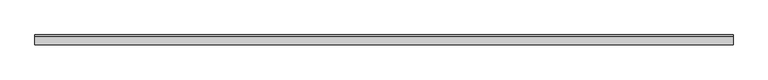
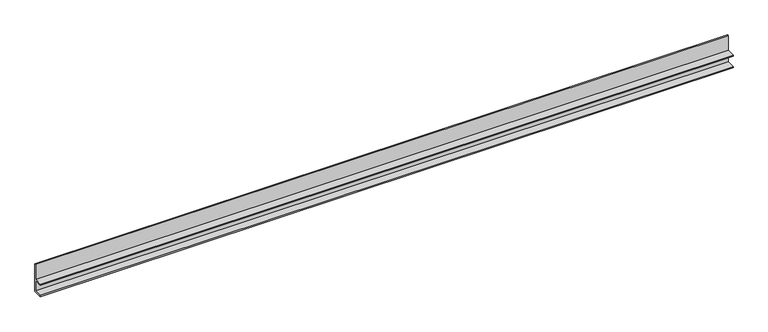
"""IFC4 building model written with IfcOpenShell, lengths in millimetres: furniture geometry."""

from ifc_helpers import new_model, si_unit, frame, origin, place, context, project, spatial, polyline, outline, extrude, source, transform, mapped, element, save


def furniture_d92eedc3(model_context):
    return source(origin(), model_context, "Body", "SweptSolid", [
        extrude(outline(polyline([(-3.175, 958.85), (0.0, 958.85), (0.0, 882.65), (-25.4, 882.65), (-25.4, 885.825), (-3.175, 885.825), (-3.175, 914.4), (-25.4, 914.4), (-25.4, 917.575), (-3.175, 917.575), (-3.175, 958.85)])), frame((-914.4, 0.0, 0.0), z_axis=(1.0, 0.0, 0.0), x_axis=(0.0, 1.0, 0.0)), (0.0, 0.0, 1.0), 1828.8),
    ])


if __name__ == "__main__":
    model = new_model("IFC4")
    model_context = context("Model", 3, world=origin())
    ifc_project = project(units=[si_unit("LENGTHUNIT", "METRE", prefix="MILLI")], contexts=[model_context])
    site = spatial("IfcSite", under=ifc_project)
    building = spatial("IfcBuilding", under=site)
    placement = place(None, origin())
    furniture_shape = furniture_d92eedc3(model_context)
    element("IfcFurniture", 1, ObjectType="HermanMiller_CoStruc_C2910_WorkSurfaceBacksplash : 3\"H x 72\"W", at=placement, inside=building, context=model_context, shape_type="MappedRepresentation", body=[
        mapped(furniture_shape, transform((0.0, 0.0, 0.0), x_axis=(1.0, 0.0, 0.0), y_axis=(0.0, 1.0, 0.0), z_axis=(0.0, 0.0, 1.0))),
    ])
    save(model, "model.ifc")
